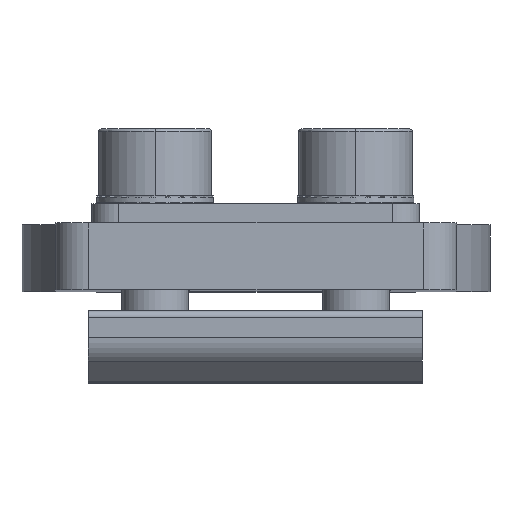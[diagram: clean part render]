
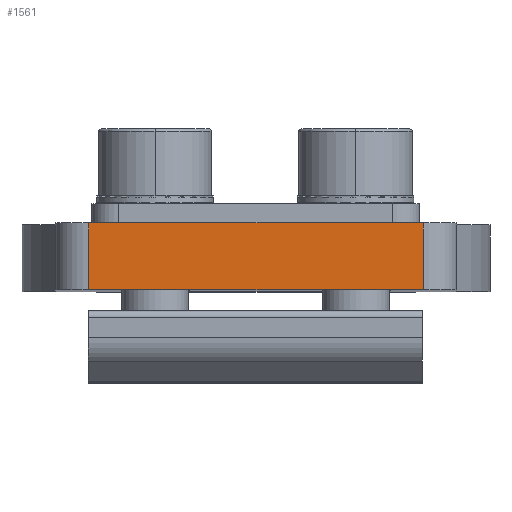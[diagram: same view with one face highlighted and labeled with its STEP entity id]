
A CAD part, top view. The second image highlights one B-rep face of the part: STEP entity #1561.
In plain terms, the highlighted planar face has unit normal (0, 0, 1).
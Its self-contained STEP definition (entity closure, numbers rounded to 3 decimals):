
#1561 = ADVANCED_FACE ( 'NONE', ( #3510 ), #13292, .F. ) ;
#1760 = EDGE_CURVE ( 'NONE', #7590, #3849, #21157, .T. ) ;
#1830 = VECTOR ( 'NONE', #24670, 1000. ) ;
#2007 = CARTESIAN_POINT ( 'NONE',  ( -68.419, -5.025, 81.223 ) ) ;
#2440 = LINE ( 'NONE', #22742, #1830 ) ;
#3093 = ORIENTED_EDGE ( 'NONE', *, *, #7313, .T. ) ;
#3510 = FACE_OUTER_BOUND ( 'NONE', #10048, .T. ) ;
#3849 = VERTEX_POINT ( 'NONE', #14726 ) ;
#4542 = CARTESIAN_POINT ( 'NONE',  ( -55.919, -0.025, 81.223 ) ) ;
#5043 = DIRECTION ( 'NONE',  ( -1., 0., 0. ) ) ;
#5342 = CARTESIAN_POINT ( 'NONE',  ( -68.419, -0.025, 81.223 ) ) ;
#5665 = VECTOR ( 'NONE', #23680, 1000. ) ;
#7062 = EDGE_CURVE ( 'NONE', #23011, #3849, #13437, .T. ) ;
#7313 = EDGE_CURVE ( 'NONE', #8773, #7590, #2440, .T. ) ;
#7590 = VERTEX_POINT ( 'NONE', #11950 ) ;
#7740 = ORIENTED_EDGE ( 'NONE', *, *, #8277, .F. ) ;
#8061 = AXIS2_PLACEMENT_3D ( 'NONE', #8102, #21664, #5043 ) ;
#8102 = CARTESIAN_POINT ( 'NONE',  ( -43.419, -5.025, 81.223 ) ) ;
#8276 = VECTOR ( 'NONE', #20152, 1000. ) ;
#8277 = EDGE_CURVE ( 'NONE', #8773, #23011, #24001, .T. ) ;
#8551 = CARTESIAN_POINT ( 'NONE',  ( -43.419, -2.525, 81.223 ) ) ;
#8773 = VERTEX_POINT ( 'NONE', #2007 ) ;
#8933 = ORIENTED_EDGE ( 'NONE', *, *, #7062, .F. ) ;
#10048 = EDGE_LOOP ( 'NONE', ( #8933, #7740, #3093, #10142 ) ) ;
#10142 = ORIENTED_EDGE ( 'NONE', *, *, #1760, .T. ) ;
#11950 = CARTESIAN_POINT ( 'NONE',  ( -43.419, -5.025, 81.223 ) ) ;
#13292 = PLANE ( 'NONE',  #8061 ) ;
#13437 = LINE ( 'NONE', #4542, #8276 ) ;
#14726 = CARTESIAN_POINT ( 'NONE',  ( -43.419, -0.025, 81.223 ) ) ;
#15607 = CARTESIAN_POINT ( 'NONE',  ( -68.419, -2.525, 81.223 ) ) ;
#20152 = DIRECTION ( 'NONE',  ( 1., 0., 0. ) ) ;
#21157 = LINE ( 'NONE', #8551, #5665 ) ;
#21395 = DIRECTION ( 'NONE',  ( 0., 1., 0. ) ) ;
#21664 = DIRECTION ( 'NONE',  ( 0., 0., -1. ) ) ;
#22742 = CARTESIAN_POINT ( 'NONE',  ( -55.919, -5.025, 81.223 ) ) ;
#23011 = VERTEX_POINT ( 'NONE', #5342 ) ;
#23417 = VECTOR ( 'NONE', #21395, 1000. ) ;
#23680 = DIRECTION ( 'NONE',  ( 0., 1., 0. ) ) ;
#24001 = LINE ( 'NONE', #15607, #23417 ) ;
#24670 = DIRECTION ( 'NONE',  ( 1., 0., 0. ) ) ;
